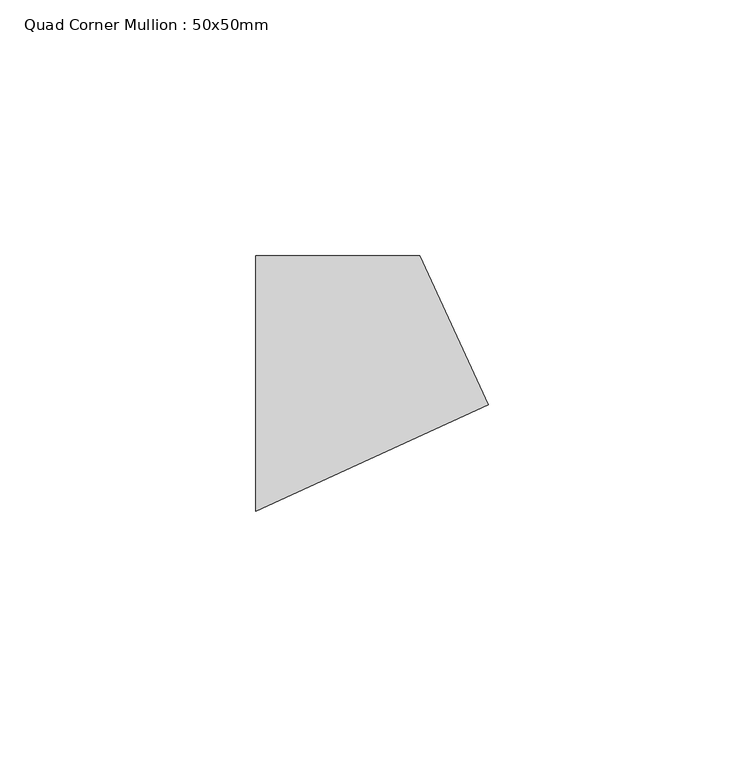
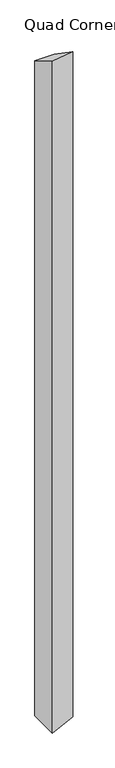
"""IFC4 building model written with IfcOpenShell, lengths in millimetres: member geometry, Quad Corner Mullion : 50x50mm."""

from ifc_helpers import new_model, si_unit, origin, place, context, project, spatial, faceted_brep, source, transform, mapped, element, save


def quad_corner_mullion_50x50mm_8ccdcc57(model_context):
    return source(origin(), model_context, "Body", "Brep", [
        faceted_brep([(29.4125559, -4.1926582, -1157.7595044), (-16.0523154, -25.0, -1157.7595044), (-16.0523154, 25.0, -1157.7595044), (16.0523154, 25.0, -1157.7595044), (16.0523154, 25.0, -14.432816), (29.4125559, -4.1926582, 2.4204746), (-16.0523154, 25.0, -14.432816), (-16.0523154, -25.0, 14.432816)], [[[0, 1, 2, 3]], [[4, 5, 0, 3]], [[6, 4, 3, 2]], [[7, 6, 2, 1]], [[5, 7, 1, 0]], [[5, 4, 6, 7]]]),
    ])


if __name__ == "__main__":
    model = new_model("IFC4")
    model_context = context("Model", 3, world=origin())
    ifc_project = project(units=[si_unit("LENGTHUNIT", "METRE", prefix="MILLI")], contexts=[model_context])
    site = spatial("IfcSite", under=ifc_project)
    building = spatial("IfcBuilding", under=site)
    placement = place(None, origin())
    quad_corner_mullion_50x50mm_shape = quad_corner_mullion_50x50mm_8ccdcc57(model_context)
    element("IfcMember", 1, ObjectType="Quad Corner Mullion : 50x50mm", at=placement, inside=building, context=model_context, shape_type="MappedRepresentation", body=[
        mapped(quad_corner_mullion_50x50mm_shape, transform((0.0, 0.0, 0.0), x_axis=(1.0, 0.0, 0.0), y_axis=(0.0, 1.0, 0.0), z_axis=(0.0, 0.0, 1.0))),
    ])
    save(model, "model.ifc")
